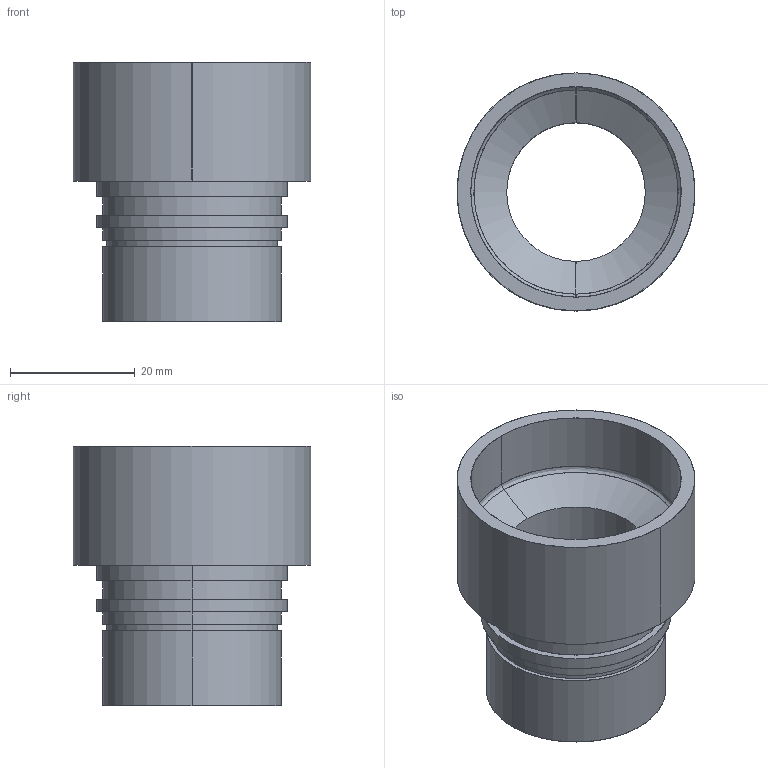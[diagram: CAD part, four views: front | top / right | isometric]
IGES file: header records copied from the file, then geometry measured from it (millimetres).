
Start section: SolidWorks IGES file using analytic representation for surfaces
Global section: file name: Part20^70-25.4R38.1-PH.IGS; native system: SolidWorks 2012; preprocessor: SolidWorks 2012; author: harada; date: 130902.101610; units: millimetre
Bounding box: 38.1 x 38.1 x 41.5 mm (x, y, z)
Surface area: 9287.9 mm2 (no closed solid volume)
Topology: 0 solids, 0 shells, 33 faces, 1092 edges, 1092 vertices
Faces by surface type: revolution 22, bspline 11
